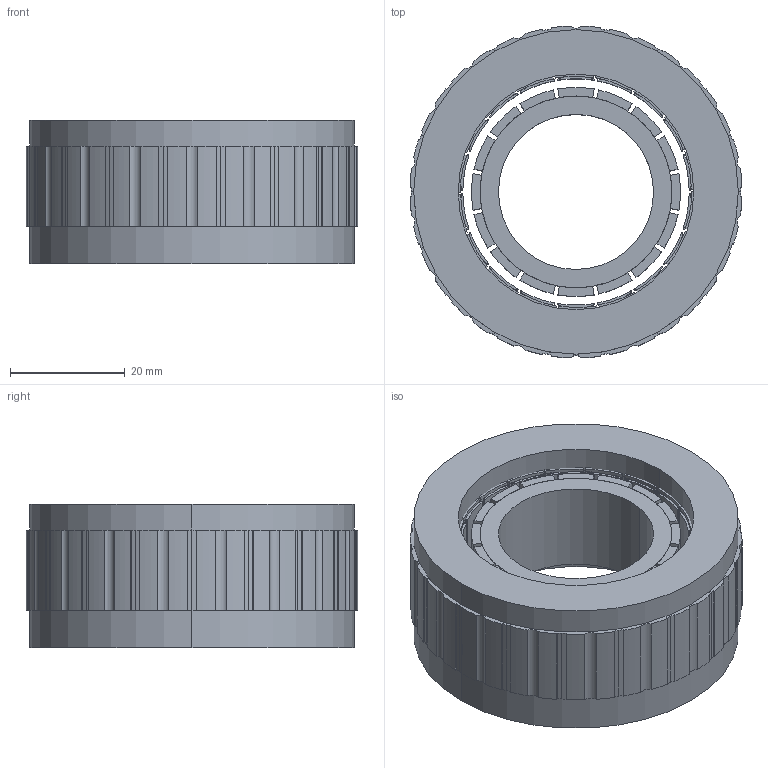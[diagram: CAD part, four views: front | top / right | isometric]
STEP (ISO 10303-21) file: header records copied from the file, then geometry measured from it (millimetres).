
FILE_DESCRIPTION (( 'STEP AP203' ), '1' );
FILE_NAME ('307080135SS(FTM05714-2030-27-D16)-V1.0(外发版）.STEP', '2022-07-28T07:23:02', ( 'muse' ), ( 'muse' ), 'SwSTEP 2.0', 'SolidWorks 2018', '' );
FILE_SCHEMA (( 'CONFIG_CONTROL_DESIGN' ));
Length unit declared in the file: millimetre
Products named in the file (6): 蛌赽; 57.8婦蝶; 307080135SS(FTM05714-2030-27-D16)-V1.0(外发版）; 盄婦詢僅; 棠詩(俋楷唳ㄘ; 57.8隅赽沺郋(俋楷唳ㄘ
Assembly tree (54 placements, depth 2):
  307080135SS(FTM05714-2030-27-D16)-V1.0(外发版）
    57.8婦蝶  x18
    57.8隅赽沺郋(俋楷唳ㄘ  x18
    蛌赽
    棠詩(俋楷唳ㄘ  x16
    盄婦詢僅
Bounding box: 57.78 x 57.77 x 25 mm (x, y, z)
Volume: 34287.1 mm3; surface area: 42029.1 mm2
Topology: 55 solids, 55 shells, 1338 faces, 3648 edges, 2384 vertices
Faces by surface type: plane 826, cylinder 512
Entity records: 5032 total; most frequent: DIRECTION 616, CARTESIAN_POINT 543, ORIENTED_EDGE 476, EDGE_CURVE 238, AXIS2_PLACEMENT_3D 229, VECTOR 158, LINE 158, VERTEX_POINT 156
